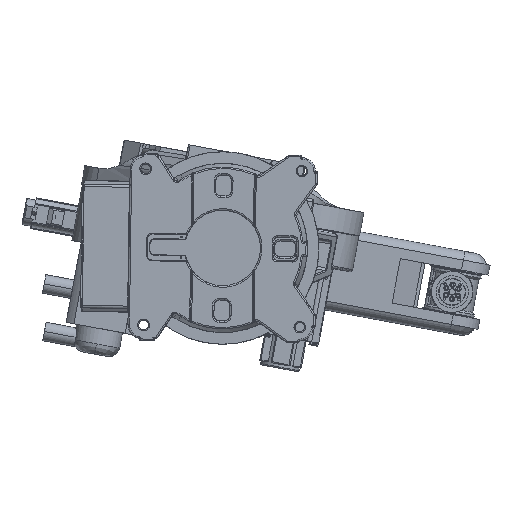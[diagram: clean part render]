
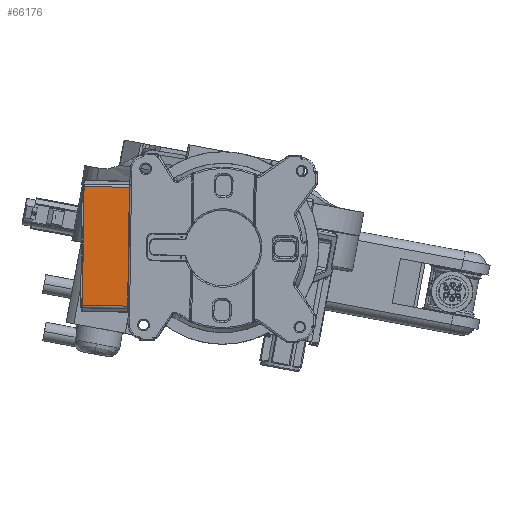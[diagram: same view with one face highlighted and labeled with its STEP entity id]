
A CAD part, front view. The second image highlights one B-rep face of the part: STEP entity #66176.
In plain terms, the highlighted planar face has unit normal (0, -1, 0).
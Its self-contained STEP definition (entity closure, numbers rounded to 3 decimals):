
#2582 = EDGE_CURVE ( 'NONE', #95153, #95136, #86426, .T. ) ;
#28685 = LINE ( 'NONE', #67489, #28693 ) ;
#28693 = VECTOR ( 'NONE', #67490, 1000. ) ;
#28695 = LINE ( 'NONE', #67491, #28697 ) ;
#28696 = LINE ( 'NONE', #67493, #28699 ) ;
#28697 = VECTOR ( 'NONE', #67492, 1000. ) ;
#28699 = VECTOR ( 'NONE', #67494, 1000. ) ;
#58088 = EDGE_CURVE ( 'NONE', #97331, #95153, #28685, .T. ) ;
#58089 = EDGE_CURVE ( 'NONE', #95136, #95976, #28695, .T. ) ;
#58090 = EDGE_CURVE ( 'NONE', #95976, #97331, #28696, .T. ) ;
#64892 = FACE_OUTER_BOUND ( 'NONE', #78069, .T. ) ;
#66176 = ADVANCED_FACE ( 'NONE', ( #64892 ), #71365, .T. ) ;
#67489 = CARTESIAN_POINT ( 'NONE',  ( 114.157, -135.7, 0. ) ) ;
#67490 = DIRECTION ( 'NONE',  ( 0., 0., 1. ) ) ;
#67491 = CARTESIAN_POINT ( 'NONE',  ( -114.157, -135.7, 0. ) ) ;
#67492 = DIRECTION ( 'NONE',  ( 0., 0., -1. ) ) ;
#67493 = CARTESIAN_POINT ( 'NONE',  ( 0., -135.7, 181. ) ) ;
#67494 = DIRECTION ( 'NONE',  ( 1., 0., 0. ) ) ;
#71358 = CARTESIAN_POINT ( 'NONE',  ( 0., -135.7, 0. ) ) ;
#71365 = PLANE ( 'NONE',  #79620 ) ;
#71367 = DIRECTION ( 'NONE',  ( 0., -1., 0. ) ) ;
#71368 = DIRECTION ( 'NONE',  ( 0., 0., -1. ) ) ;
#78069 = EDGE_LOOP ( 'NONE', ( #109214, #109216, #109219, #109221 ) ) ;
#79620 = AXIS2_PLACEMENT_3D ( 'NONE', #71358, #71367, #71368 ) ;
#85124 = DIRECTION ( 'NONE',  ( -1., 0., 0. ) ) ;
#85130 = CARTESIAN_POINT ( 'NONE',  ( -114.157, -135.7, 268. ) ) ;
#86426 = LINE ( 'NONE', #85130, #86428 ) ;
#86428 = VECTOR ( 'NONE', #85124, 1000. ) ;
#95136 = VERTEX_POINT ( 'NONE', #107718 ) ;
#95153 = VERTEX_POINT ( 'NONE', #107727 ) ;
#95976 = VERTEX_POINT ( 'NONE', #107938 ) ;
#97331 = VERTEX_POINT ( 'NONE', #108333 ) ;
#107718 = CARTESIAN_POINT ( 'NONE',  ( -114.157, -135.7, 268. ) ) ;
#107727 = CARTESIAN_POINT ( 'NONE',  ( 114.157, -135.7, 268. ) ) ;
#107938 = CARTESIAN_POINT ( 'NONE',  ( -114.157, -135.7, 181. ) ) ;
#108333 = CARTESIAN_POINT ( 'NONE',  ( 114.157, -135.7, 181. ) ) ;
#109214 = ORIENTED_EDGE ( 'NONE', *, *, #58088, .T. ) ;
#109216 = ORIENTED_EDGE ( 'NONE', *, *, #2582, .T. ) ;
#109219 = ORIENTED_EDGE ( 'NONE', *, *, #58089, .T. ) ;
#109221 = ORIENTED_EDGE ( 'NONE', *, *, #58090, .T. ) ;
